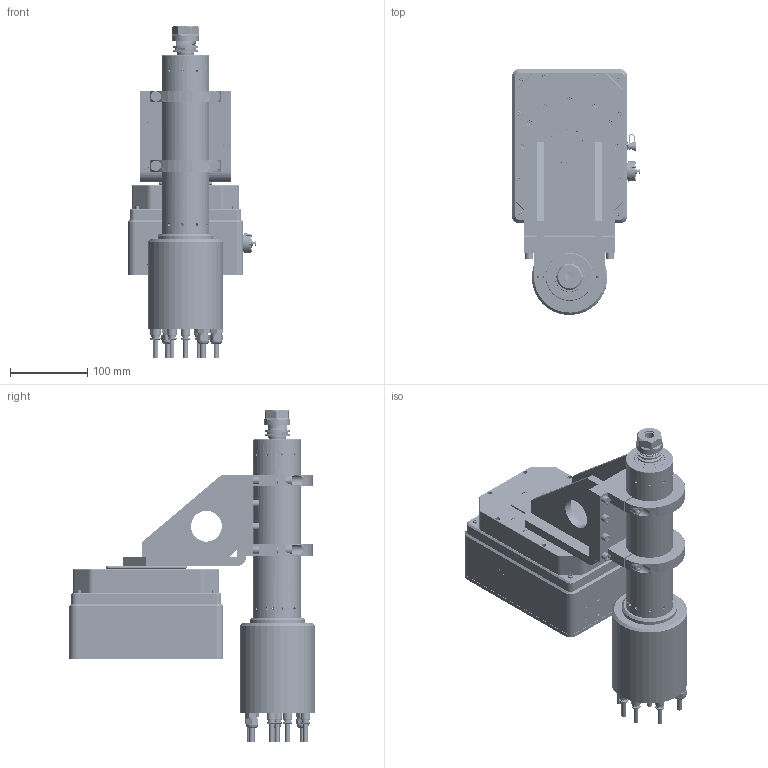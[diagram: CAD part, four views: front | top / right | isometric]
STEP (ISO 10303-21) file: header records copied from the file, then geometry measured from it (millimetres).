
FILE_DESCRIPTION (( 'STEP AP214' ), '1' );
FILE_NAME ('2¡¢1.5KWµç¶¯ÖáÓë500N¸¡¶¯Ä£¿é£¨º', '2025-09-30T01:18:22', ( 'selfweld_user' ), ( '' ), 'SwSTEP 2.0', 'SolidWorks 2022', '' );
FILE_SCHEMA (( 'AUTOMOTIVE_DESIGN' ));
Length unit declared in the file: millimetre
Products named in the file (16): ロ珔謫耀倰(1)D赤(1)D“a(1); GB／T70．1-2000内六角圆柱头螺钉M6×20·_Y_¤M6_á20_¤_Y__èM6_¨￠20; 1.5KW电动轴与500N浮动模块连接件4_￡_éá__ó_t4__ê_¨|¨￠__¨__t4; GB／T859-1987轻型弹簧垫圈(装配)8×1．6°__)8_á1￡_6____)8_¨￠1_ê_6; 1.5KW电动轴与500N浮动模块连接件5_￡_éá__ó_t5__ê_¨|¨￠__¨__t5; 2、1.5KW电动轴与500N浮动模块（横装）装配体_é￡¨oá×°￡_×°__ì__¨|_ê_§o¨￠_á___ê__á____¨__; BT20-035MS絮梟㊣迆_角“2; GB／T70．1-2000内六角圆柱头螺钉M5×20·_Y_¤M5_á20_¤_Y__èM5_¨￠20; ECM1A-500-002-000 楷冞奻漆2025071107110711; 1.5KW（HYC62F）电动轴__ˉ_á___￥_¨￠; 1、1.5KW电动轴与500N浮动模块连接支架装配体_éá__ó_§_ü×°__ì__¨|¨￠__¨___ì_¨1_á____¨__; GB／T70．1-2000内六角圆柱头螺钉M8×25·_Y_¤M8_á25_¤_Y__èM8_¨￠25; 1.5KW萇雄粣蟀諉璃3__車_t3__“__t3; 1.5KW萇雄粣蟀諉璃2__車_t2__“__t2; 眻噤3mm酗20mm种隊m_迆_∟m_“2__豕; GB／T859-1987轻型弹簧垫圈(装配)6×1．3°__)6_á1￡_3____)6_¨￠1_ê_3
Assembly tree (55 placements, depth 3):
  2、1.5KW电动轴与500N浮动模块（横装）装配体_é￡¨oá×°￡_×°__ì__¨|_ê_§o¨￠_á___ê__á____¨__
    1.5KW（HYC62F）电动轴__ˉ_á___￥_¨￠
    BT20-035MS絮梟㊣迆_角“2
    1.5KW萇雄粣蟀諉璃2__車_t2__“__t2
    1.5KW萇雄粣蟀諉璃3__車_t3__“__t3
    GB／T70．1-2000内六角圆柱头螺钉M8×25·_Y_¤M8_á25_¤_Y__èM8_¨￠25  x4
    GB／T70．1-2000内六角圆柱头螺钉M6×20·_Y_¤M6_á20_¤_Y__èM6_¨￠20  x8
    GB／T859-1987轻型弹簧垫圈(装配)6×1．3°__)6_á1￡_3____)6_¨￠1_ê_3  x8
    GB／T859-1987轻型弹簧垫圈(装配)8×1．6°__)8_á1￡_6____)8_¨￠1_ê_6  x5
    ECM1A-500-002-000 楷冞奻漆2025071107110711
    眻噤3mm酗20mm种隊m_迆_∟m_“2__豕  x2
    1、1.5KW电动轴与500N浮动模块连接支架装配体_éá__ó_§_ü×°__ì__¨|¨￠__¨___ì_¨1_á____¨__
      1.5KW电动轴与500N浮动模块连接件4_￡_éá__ó_t4__ê_¨|¨￠__¨__t4
      1.5KW电动轴与500N浮动模块连接件5_￡_éá__ó_t5__ê_¨|¨￠__¨__t5  x2
      GB／T70．1-2000内六角圆柱头螺钉M6×20·_Y_¤M6_á20_¤_Y__èM6_¨￠20  x12
      GB／T70．1-2000内六角圆柱头螺钉M5×20·_Y_¤M5_á20_¤_Y__èM5_¨￠20  x6
    ロ珔謫耀倰(1)D赤(1)D“a(1)
Bounding box: 166.81 x 319.05 x 430.9 mm (x, y, z)
Volume: 1803002.2 mm3; surface area: 821347.1 mm2
Topology: 149 solids, 179 shells, 7190 faces, 17270 edges, 10659 vertices
Faces by surface type: plane 3240, cylinder 2143, cone 1112, torus 441, bspline 236, sphere 18
Entity records: 267843 total; most frequent: CARTESIAN_POINT 70394, DIRECTION 36433, ORIENTED_EDGE 34010, EDGE_CURVE 17176, AXIS2_PLACEMENT_3D 13549, VERTEX_POINT 10862, LINE 9335, VECTOR 9335
